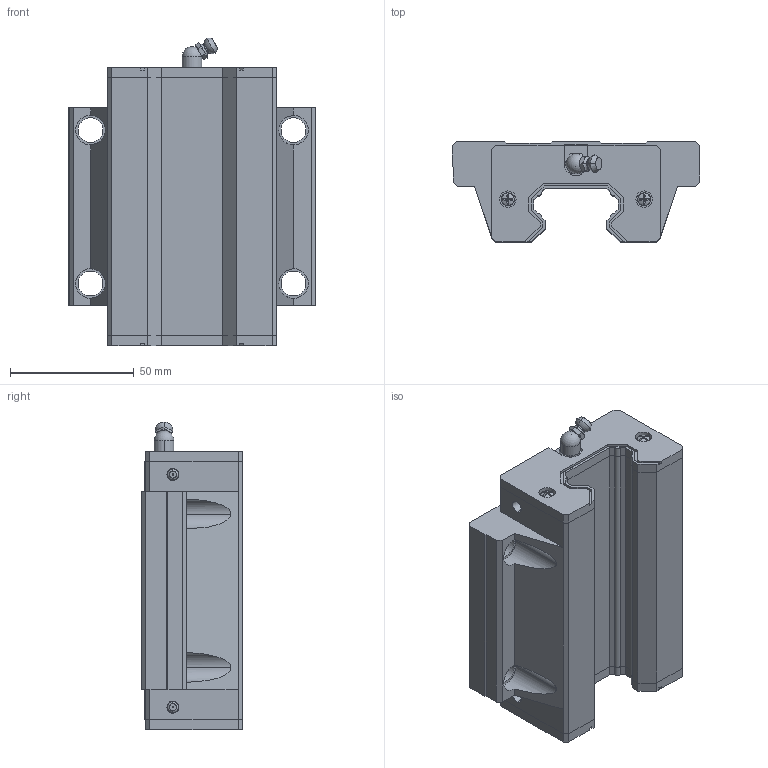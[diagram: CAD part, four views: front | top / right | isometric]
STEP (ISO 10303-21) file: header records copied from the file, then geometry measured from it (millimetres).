
FILE_DESCRIPTION (( 'STEP AP203' ), '1' );
FILE_NAME ('HGW35CC.STEP', '2021-10-22T07:53:04', ( '微软用户' ), ( '微软中国' ), 'SwSTEP 2.0', 'SolidWorks 2012', '' );
FILE_SCHEMA (( 'CONFIG_CONTROL_DESIGN' ));
Length unit declared in the file: millimetre
Products named in the file (1): HGW35CC
Bounding box: 100 x 40.6 x 124.4 mm (x, y, z)
Volume: 280809.3 mm3; surface area: 50362.8 mm2
Topology: 3 solids, 3 shells, 379 faces, 1006 edges, 661 vertices
Faces by surface type: plane 256, cylinder 76, cone 22, torus 20, sphere 5
Entity records: 12325 total; most frequent: CARTESIAN_POINT 2674, ORIENTED_EDGE 2006, DIRECTION 1982, EDGE_CURVE 1003, LINE 680, VECTOR 680, VERTEX_POINT 659, AXIS2_PLACEMENT_3D 651
